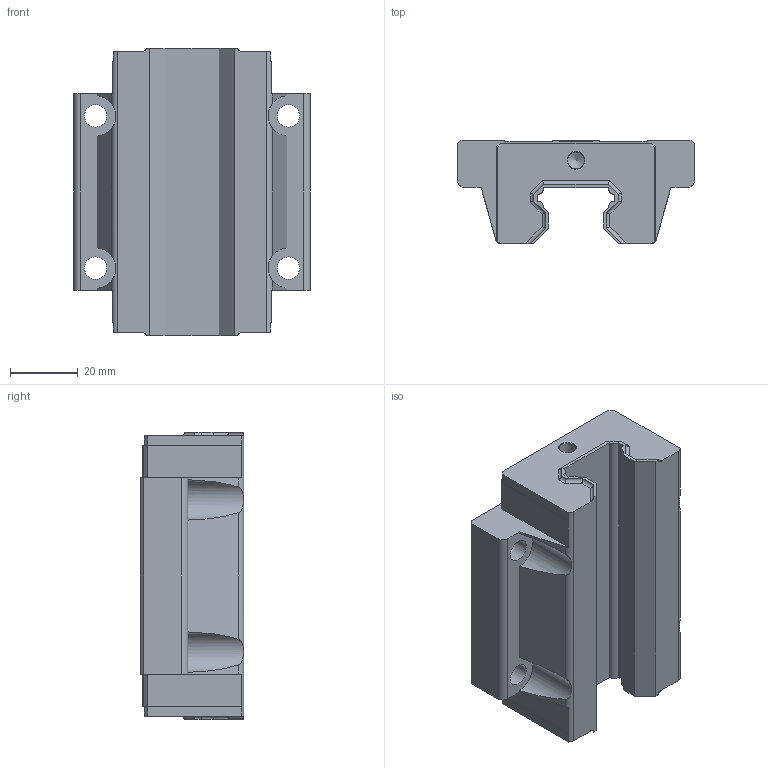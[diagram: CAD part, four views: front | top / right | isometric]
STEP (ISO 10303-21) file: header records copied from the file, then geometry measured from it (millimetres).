
FILE_DESCRIPTION(/* description */ (''),/* implementation_level */ '2;1');
FILE_NAME(/* name */ 'C:\Users\daviddillkoetter\ownCloud\Kamp und Kötter\Artikel\KPN_Profilführungen\Step\KPNW-25X-FS.stp',/* time_stamp */ '2021-01-27T16:39:38+01:00',/* author */ ('daviddillkoetter'),/* organization */ (''),/* preprocessor_version */ 'ST-DEVELOPER v18.1',/* originating_system */ 'Autodesk Inventor 2021',/* authorisation */ '');
FILE_SCHEMA (('AUTOMOTIVE_DESIGN { 1 0 10303 214 3 1 1 }'));
Length unit declared in the file: millimetre
Products named in the file (1): KPNW-F
Bounding box: 70 x 30.5 x 85 mm (x, y, z)
Volume: 109583.1 mm3; surface area: 22492.4 mm2
Topology: 1 solids, 1 shells, 116 faces, 336 edges, 222 vertices
Faces by surface type: plane 68, cylinder 40, cone 8
Full cylindrical faces by diameter (mm): 4.917 x2, 6.647 x4
Entity records: 4040 total; most frequent: CARTESIAN_POINT 759, ORIENTED_EDGE 668, DIRECTION 644, EDGE_CURVE 334, LINE 250, VECTOR 250, VERTEX_POINT 222, AXIS2_PLACEMENT_3D 197
